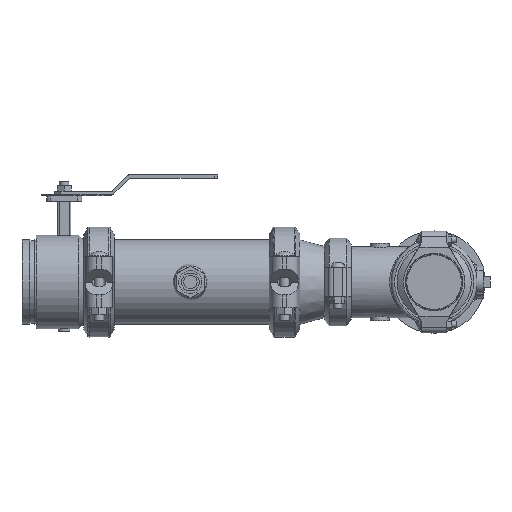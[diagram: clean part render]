
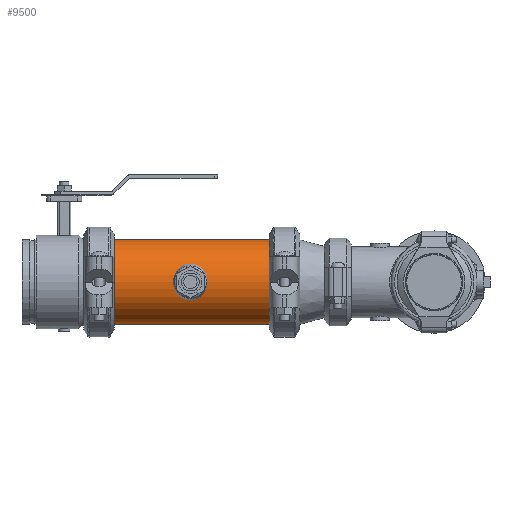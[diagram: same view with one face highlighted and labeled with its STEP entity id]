
A CAD part, left-side view. The second image highlights one B-rep face of the part: STEP entity #9500.
In plain terms, the highlighted cylindrical face has radius 84.138 mm (diameter 168.275 mm), a full revolution.
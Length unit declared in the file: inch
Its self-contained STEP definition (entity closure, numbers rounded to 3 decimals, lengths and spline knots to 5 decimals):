
#868=FACE_OUTER_BOUND('',#1464,.T.);
#1464=EDGE_LOOP('',(#7189,#7190,#7191,#7192,#7193,#7194));
#2088=CIRCLE('',#10553,3.3125);
#2089=CIRCLE('',#10554,3.3125);
#2090=CIRCLE('',#10556,3.3125);
#2091=CIRCLE('',#10557,3.3125);
#2645=LINE('',#16334,#3325);
#3325=VECTOR('',#12526,3.3125);
#4149=VERTEX_POINT('',#16325);
#4150=VERTEX_POINT('',#16326);
#4151=VERTEX_POINT('',#16330);
#4152=VERTEX_POINT('',#16331);
#5235=EDGE_CURVE('',#4149,#4150,#2088,.T.);
#5236=EDGE_CURVE('',#4150,#4149,#2089,.T.);
#5237=EDGE_CURVE('',#4151,#4152,#2090,.T.);
#5238=EDGE_CURVE('',#4152,#4151,#2091,.T.);
#5239=EDGE_CURVE('',#4152,#4150,#2645,.T.);
#7189=ORIENTED_EDGE('',*,*,#5237,.F.);
#7190=ORIENTED_EDGE('',*,*,#5238,.F.);
#7191=ORIENTED_EDGE('',*,*,#5239,.T.);
#7192=ORIENTED_EDGE('',*,*,#5236,.T.);
#7193=ORIENTED_EDGE('',*,*,#5235,.T.);
#7194=ORIENTED_EDGE('',*,*,#5239,.F.);
#8631=CYLINDRICAL_SURFACE('',#10555,3.3125);
#9500=ADVANCED_FACE('',(#868),#8631,.T.);
#10553=AXIS2_PLACEMENT_3D('',#16327,#12516,#12517);
#10554=AXIS2_PLACEMENT_3D('',#16328,#12518,#12519);
#10555=AXIS2_PLACEMENT_3D('',#16329,#12520,#12521);
#10556=AXIS2_PLACEMENT_3D('',#16332,#12522,#12523);
#10557=AXIS2_PLACEMENT_3D('',#16333,#12524,#12525);
#12516=DIRECTION('center_axis',(0.,-1.,0.));
#12517=DIRECTION('ref_axis',(1.,0.,0.));
#12518=DIRECTION('center_axis',(0.,-1.,0.));
#12519=DIRECTION('ref_axis',(1.,0.,0.));
#12520=DIRECTION('center_axis',(0.,-1.,0.));
#12521=DIRECTION('ref_axis',(1.,0.,0.));
#12522=DIRECTION('center_axis',(0.,-1.,0.));
#12523=DIRECTION('ref_axis',(1.,0.,0.));
#12524=DIRECTION('center_axis',(0.,-1.,0.));
#12525=DIRECTION('ref_axis',(1.,0.,0.));
#12526=DIRECTION('',(0.,1.,0.));
#16325=CARTESIAN_POINT('',(3.3125,6.1175,0.));
#16326=CARTESIAN_POINT('',(-3.3125,6.1175,0.));
#16327=CARTESIAN_POINT('Origin',(0.,6.1175,0.));
#16328=CARTESIAN_POINT('Origin',(0.,6.1175,0.));
#16329=CARTESIAN_POINT('Origin',(0.,0.,
0.));
#16330=CARTESIAN_POINT('',(3.3125,-6.1175,0.));
#16331=CARTESIAN_POINT('',(-3.3125,-6.1175,0.));
#16332=CARTESIAN_POINT('Origin',(0.,-6.1175,0.));
#16333=CARTESIAN_POINT('Origin',(0.,-6.1175,0.));
#16334=CARTESIAN_POINT('',(-3.3125,0.,0.));
